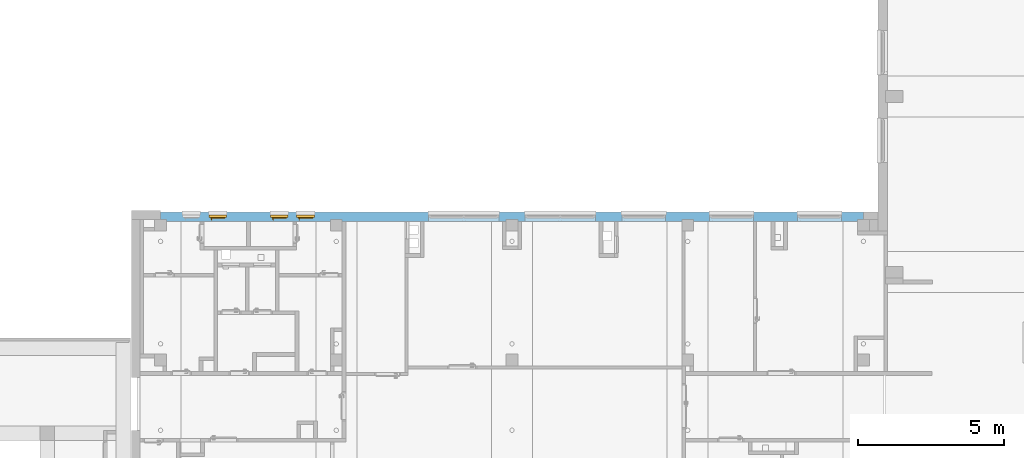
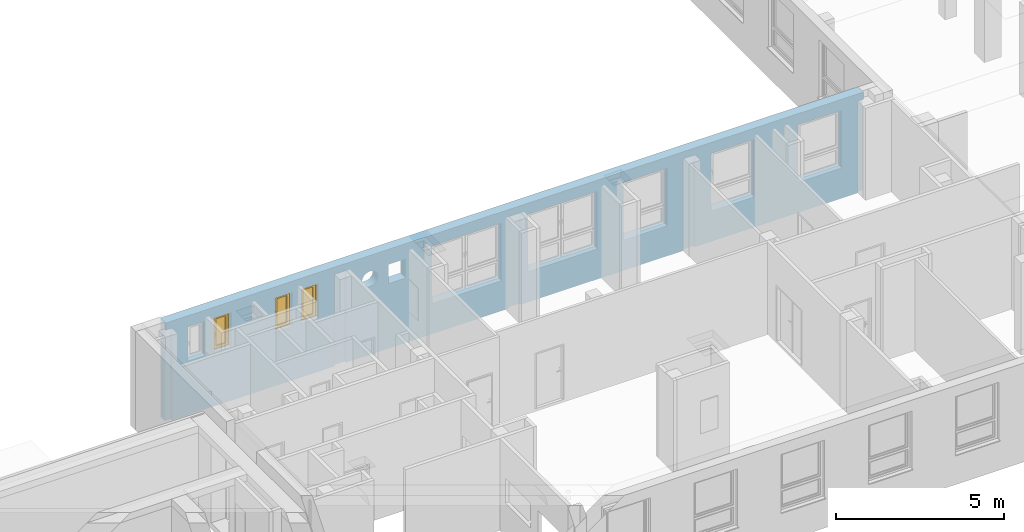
# One storey, part 17 of 50: 3 windows, 11 openings, plus 1 element that does not belong to this part.
"""IFC4 building model written with IfcOpenShell, lengths in metres."""

from ifc_helpers import new_model, entity, si_unit, converted_unit, derived_unit, frame, frame_2d, origin, origin_with_axes, place, context, subcontext, project, spatial, polyline, rectangle, outline, extrude, clip, bounded_halfspace, closed_shell, open_shell, surface_model, source, transform, mapped, material, layer, layer_set, layer_usage, element, fill, save


model = new_model("IFC4")

# Units and contexts
model_context = context("Model", 3, precision=1e-05, world=origin())
body_context = subcontext(model_context, "Body", "Model", "MODEL_VIEW")
ifc_project = project(units=[si_unit("LENGTHUNIT", "METRE"), si_unit("AREAUNIT", "SQUARE_METRE"), si_unit("VOLUMEUNIT", "CUBIC_METRE"), si_unit("MASSUNIT", "GRAM", prefix="KILO"), converted_unit("PLANEANGLEUNIT", "DEGREE", entity("IfcPlaneAngleMeasure", 0.0174532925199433), si_unit("PLANEANGLEUNIT", "RADIAN"), dimensions=[0, 0, 0, 0, 0, 0, 0]), derived_unit("THERMALTRANSMITTANCEUNIT", [(si_unit("POWERUNIT", "WATT"), 1), (si_unit("THERMODYNAMICTEMPERATUREUNIT", "KELVIN"), -1), (si_unit("LENGTHUNIT", "METRE"), -2)]), derived_unit("VOLUMETRICFLOWRATEUNIT", [(si_unit("LENGTHUNIT", "METRE"), 3), (converted_unit("TIMEUNIT", "hour", entity("IfcTimeMeasure", 3600.0), si_unit("TIMEUNIT", "SECOND"), dimensions=[0, 0, 1, 0, 0, 0, 0]), -1), (si_unit("LENGTHUNIT", "METRE"), -1)])], contexts=[model_context])

# Site, building, storey
site_placement = place(None, origin())
site = spatial("IfcSite", under=ifc_project, at=site_placement, Name="3. ASŘ", CompositionType="ELEMENT")
building_placement = place(site_placement, origin())
building = spatial("IfcBuilding", under=site, at=building_placement, Name="Pavilon C", CompositionType="ELEMENT")
storey_placement = place(building_placement, frame((0.0, 0.0, 3.6)))
storey = spatial("IfcBuildingStorey", under=building, at=storey_placement, Name="Půdorys 2.NP", CompositionType="ELEMENT", Elevation=3.6)

# Wall, openings, windows
ifc_material = material(Name="ZELEZOBETONOVÁ KCE")
ifc_layer = layer(ifc_material, 0.32)
ifc_layer_set = layer_set([ifc_layer])
ifc_layer_usage = layer_usage(ifc_layer_set, "AXIS2", "POSITIVE", 0.0)
wall_placement = place(storey_placement, frame((24.0, 15.25, -0.1), z_axis=(0.0, 0.0, 1.0), x_axis=(-1.0, 0.0, 0.0)))
wall = element("IfcWall", 1, at=wall_placement, inside=storey, material=ifc_layer_usage, Name="ZELEZOBETONOVÁ KCE", context=body_context, shape_type="Clipping", body=[
    clip(clip(clip(clip(clip(extrude(rectangle(XDim=24.0, YDim=0.32, at=frame_2d((12.0, 0.16), x_axis=(1.0, 0.0))), origin_with_axes(), (0.0, 0.0, 1.0), 3.6), bounded_halfspace(frame((23.9, 0.285000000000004, 3.35), z_axis=(0.0, 0.0, 1.0), x_axis=(1.0, 0.0, 0.0)), True, origin_with_axes(), polyline([(23.8, 0.250000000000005), (24.0, 0.250000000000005), (24.0, 0.32), (23.8, 0.320000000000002), (23.8, 0.250000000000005)]))), bounded_halfspace(frame((0.0999999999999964, 0.285000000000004, 3.35), z_axis=(0.0, 0.0, 1.0), x_axis=(1.0, 0.0, 0.0)), True, origin_with_axes(), polyline([(0.0, 0.250000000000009), (0.199999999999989, 0.250000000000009), (0.199999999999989, 0.320000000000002), (0.0, 0.32), (0.0, 0.250000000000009)]))), bounded_halfspace(frame((12.0, 0.285000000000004, 3.35), z_axis=(0.0, 0.0, 1.0), x_axis=(1.0, 0.0, 0.0)), True, origin_with_axes(), polyline([(11.8, 0.250000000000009), (12.2, 0.250000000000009), (12.2, 0.32), (11.8, 0.32), (11.8, 0.250000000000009)]))), bounded_halfspace(frame((5.99999999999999, 0.285000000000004, 3.35), z_axis=(0.0, 0.0, 1.0), x_axis=(1.0, 0.0, 0.0)), True, origin_with_axes(), polyline([(5.79999999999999, 0.250000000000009), (6.19999999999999, 0.250000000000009), (6.19999999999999, 0.32), (5.79999999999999, 0.32), (5.79999999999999, 0.250000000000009)]))), bounded_halfspace(frame((18.0, 0.285000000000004, 3.35), z_axis=(0.0, 0.0, 1.0), x_axis=(1.0, 0.0, 0.0)), True, origin_with_axes(), polyline([(17.8, 0.250000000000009), (18.2, 0.250000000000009), (18.2, 0.32), (17.8, 0.32), (17.8, 0.250000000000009)]))),
])
opening_1_placement = place(wall_placement, frame((16.7, 0.0, 2.475), z_axis=(0.0, 1.0, 0.0), x_axis=(0.0, 0.0, 1.0)))
element("IfcOpeningElement", 2, at=opening_1_placement, cuts=wall, Name="Prostup stěnou", ObjectType="Opening", context=body_context, shape_type="SweptSolid", body=[
    extrude(outline(polyline([(0.274999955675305, 0.55), (0.303745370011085, 0.548493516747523), (0.332175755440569, 0.543990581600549), (0.359979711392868, 0.536540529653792), (0.386852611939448, 0.526224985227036), (0.412500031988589, 0.5131569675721), (0.436640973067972, 0.497479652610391), (0.459010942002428, 0.479364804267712), (0.479364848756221, 0.459010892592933), (0.497479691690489, 0.436640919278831), (0.513157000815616, 0.412499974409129), (0.526225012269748, 0.38685255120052), (0.536540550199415, 0.35997964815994), (0.54399059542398, 0.332175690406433), (0.548493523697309, 0.303745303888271), (0.549999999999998, 0.274999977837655), (0.548493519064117, 0.246254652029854), (0.543990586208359, 0.217824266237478), (0.536540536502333, 0.190020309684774), (0.526224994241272, 0.163147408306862), (0.51315697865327, 0.137499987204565), (0.497479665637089, 0.113359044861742), (0.479364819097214, 0.090989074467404), (0.459010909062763, 0.0706351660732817), (0.436640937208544, 0.0525203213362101), (0.412499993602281, 0.0368430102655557), (0.386852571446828, 0.0237749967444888), (0.35997966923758, 0.0134594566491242), (0.332175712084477, 0.00600940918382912), (0.303745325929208, 0.00150647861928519), (0.274999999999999, 0.0), (0.24625467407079, 0.00150647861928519), (0.217824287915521, 0.00600940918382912), (0.190020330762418, 0.0134594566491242), (0.16314742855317, 0.0237749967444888), (0.137500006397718, 0.0368430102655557), (0.113359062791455, 0.0525203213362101), (0.0909890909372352, 0.0706351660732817), (0.0706351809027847, 0.090989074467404), (0.0525203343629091, 0.113359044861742), (0.0368430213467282, 0.137499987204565), (0.0237750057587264, 0.163147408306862), (0.0134594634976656, 0.190020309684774), (0.00600941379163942, 0.217824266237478), (0.00150648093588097, 0.246254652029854), (0.0, 0.274999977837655), (0.00150647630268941, 0.303745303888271), (0.00600940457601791, 0.332175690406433), (0.0134594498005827, 0.35997964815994), (0.0237749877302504, 0.38685255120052), (0.0368429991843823, 0.412499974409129), (0.0525203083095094, 0.436640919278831), (0.0706351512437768, 0.459010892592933), (0.0909890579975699, 0.479364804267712), (0.113359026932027, 0.497479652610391), (0.137499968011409, 0.5131569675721), (0.16314738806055, 0.526224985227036), (0.19002028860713, 0.536540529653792), (0.21782424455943, 0.543990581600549), (0.246254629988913, 0.548493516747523), (0.274999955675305, 0.55)])), origin_with_axes(), (0.0, 0.0, 1.0), 0.32),
])
opening_2_placement = place(wall_placement, frame((15.75, 0.0, 2.35), z_axis=(0.0, 1.0, 0.0), x_axis=(0.0, 0.0, 1.0)))
element("IfcOpeningElement", 3, at=opening_2_placement, cuts=wall, Name="Prostup stěnou", ObjectType="Opening", context=body_context, shape_type="SweptSolid", body=[
    extrude(outline(polyline([(0.0, 0.6), (0.7, 0.6), (0.7, 0.0), (0.0, 0.0), (0.0, 0.6)])), origin_with_axes(), (0.0, 0.0, 1.0), 0.32),
])
opening_3_placement = place(wall_placement, frame((12.45, 0.0, 1.1), z_axis=(0.0, 1.0, 0.0), x_axis=(0.0, 0.0, 1.0)))
element("IfcOpeningElement", 4, at=opening_3_placement, cuts=wall, Name="Okenní otvor", ObjectType="Opening", context=body_context, shape_type="SweptSolid", body=[
    extrude(outline(polyline([(0.0, 2.4), (2.1, 2.4), (2.1, 0.0), (0.0, 0.0), (0.0, 2.4)])), origin_with_axes(), (0.0, 0.0, 1.0), 0.32),
])
opening_4_placement = place(wall_placement, frame((9.15000000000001, 0.0, 1.1), z_axis=(0.0, 1.0, 0.0), x_axis=(0.0, 0.0, 1.0)))
element("IfcOpeningElement", 5, at=opening_4_placement, cuts=wall, Name="Okenní otvor", ObjectType="Opening", context=body_context, shape_type="SweptSolid", body=[
    extrude(outline(polyline([(0.0, 2.4), (2.1, 2.4), (2.1, 0.0), (0.0, 0.0), (0.0, 2.4)])), origin_with_axes(), (0.0, 0.0, 1.0), 0.32),
])
opening_5_placement = place(wall_placement, frame((0.750000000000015, 0.0, 1.1), z_axis=(0.0, 1.0, 0.0), x_axis=(0.0, 0.0, 1.0)))
element("IfcOpeningElement", 6, at=opening_5_placement, cuts=wall, Name="Okenní otvor", ObjectType="Opening", context=body_context, shape_type="SweptSolid", body=[
    extrude(outline(polyline([(0.0, 1.5), (2.1, 1.5), (2.1, 0.0), (0.0, 0.0), (0.0, 1.5)])), origin_with_axes(), (0.0, 0.0, 1.0), 0.32),
])
opening_6_placement = place(wall_placement, frame((3.75000000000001, 0.0, 1.1), z_axis=(0.0, 1.0, 0.0), x_axis=(0.0, 0.0, 1.0)))
element("IfcOpeningElement", 7, at=opening_6_placement, cuts=wall, Name="Okenní otvor", ObjectType="Opening", context=body_context, shape_type="SweptSolid", body=[
    extrude(outline(polyline([(0.0, 1.5), (2.1, 1.5), (2.1, 0.0), (0.0, 0.0), (0.0, 1.5)])), origin_with_axes(), (0.0, 0.0, 1.0), 0.32),
])
opening_7_placement = place(wall_placement, frame((6.75000000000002, 0.0, 1.1), z_axis=(0.0, 1.0, 0.0), x_axis=(0.0, 0.0, 1.0)))
element("IfcOpeningElement", 8, at=opening_7_placement, cuts=wall, Name="Okenní otvor", ObjectType="Opening", context=body_context, shape_type="SweptSolid", body=[
    extrude(outline(polyline([(0.0, 1.5), (2.1, 1.5), (2.1, 0.0), (0.0, 0.0), (0.0, 1.5)])), origin_with_axes(), (0.0, 0.0, 1.0), 0.32),
])
opening_8_placement = place(wall_placement, frame((22.65, 0.0, 1.95), z_axis=(0.0, 1.0, 0.0), x_axis=(0.0, 0.0, 1.0)))
element("IfcOpeningElement", 9, at=opening_8_placement, cuts=wall, Name="Okenní otvor", ObjectType="Opening", context=body_context, shape_type="SweptSolid", body=[
    extrude(outline(polyline([(0.0, 0.6), (1.25, 0.6), (1.25, 0.0), (0.0, 0.0), (0.0, 0.6)])), origin_with_axes(), (0.0, 0.0, 1.0), 0.32),
])
opening_9_placement = place(wall_placement, frame((18.75, 0.0, 1.95), z_axis=(0.0, 1.0, 0.0), x_axis=(0.0, 0.0, 1.0)))
opening_9 = element("IfcOpeningElement", 10, at=opening_9_placement, cuts=wall, Name="Okenní otvor", ObjectType="Opening", context=body_context, shape_type="SweptSolid", body=[
    extrude(outline(polyline([(0.0, 0.6), (1.25, 0.6), (1.25, 0.0), (0.0, 0.0), (0.0, 0.6)])), origin_with_axes(), (0.0, 0.0, 1.0), 0.32),
])
opening_10_placement = place(wall_placement, frame((19.65, 0.0, 1.95), z_axis=(0.0, 1.0, 0.0), x_axis=(0.0, 0.0, 1.0)))
opening_10 = element("IfcOpeningElement", 11, at=opening_10_placement, cuts=wall, Name="Okenní otvor", ObjectType="Opening", context=body_context, shape_type="SweptSolid", body=[
    extrude(outline(polyline([(0.0, 0.6), (1.25, 0.6), (1.25, 0.0), (0.0, 0.0), (0.0, 0.6)])), origin_with_axes(), (0.0, 0.0, 1.0), 0.32),
])
opening_11_placement = place(wall_placement, frame((21.75, 0.0, 1.95), z_axis=(0.0, 1.0, 0.0), x_axis=(0.0, 0.0, 1.0)))
opening_11 = element("IfcOpeningElement", 12, at=opening_11_placement, cuts=wall, Name="Okenní otvor", ObjectType="Opening", context=body_context, shape_type="SweptSolid", body=[
    extrude(outline(polyline([(0.0, 0.6), (1.25, 0.6), (1.25, 0.0), (0.0, 0.0), (0.0, 0.6)])), origin_with_axes(), (0.0, 0.0, 1.0), 0.32),
])
shared_shape = source(origin_with_axes(), body_context, "Body", "SurfaceModel", [
    surface_model("IfcShellBasedSurfaceModel", [(0.0, 0.182, 1.25), (0.0, 0.182, -5.63337527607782e-18), (0.08, 0.182, -5.63337527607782e-18), (0.08, 0.182, 1.25), (0.0, 0.0899999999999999, 5.63337527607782e-18), (0.0, 0.0900000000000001, 1.25), (0.08, 0.0900000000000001, 1.25), (0.08, 0.0899999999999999, 5.63337527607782e-18)], [closed_shell([[[0, 1, 2, 3]], [[4, 5, 6, 7]], [[1, 0, 5, 4]], [[2, 1, 4, 7]], [[3, 2, 7, 6]], [[0, 3, 6, 5]]], orient=[[False], [False], [False], [False], [False], [False]])]),
    surface_model("IfcShellBasedSurfaceModel", [(0.52, 0.182, 1.25), (0.52, 0.182, -5.63337527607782e-18), (0.6, 0.182, -5.63337527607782e-18), (0.6, 0.182, 1.25), (0.52, 0.0899999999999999, 5.63337527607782e-18), (0.52, 0.0900000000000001, 1.25), (0.6, 0.0900000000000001, 1.25), (0.6, 0.0899999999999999, 5.63337527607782e-18)], [closed_shell([[[0, 1, 2, 3]], [[4, 5, 6, 7]], [[1, 0, 5, 4]], [[2, 1, 4, 7]], [[3, 2, 7, 6]], [[0, 3, 6, 5]]], orient=[[False], [False], [False], [False], [False], [False]])]),
    surface_model("IfcShellBasedSurfaceModel", [(0.08, 0.182, 0.08), (0.08, 0.182, -5.63337527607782e-18), (0.52, 0.182, -5.63337527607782e-18), (0.52, 0.182, 0.08), (0.08, 0.0899999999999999, 5.63337527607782e-18), (0.08, 0.0899999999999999, 0.08), (0.52, 0.0899999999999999, 0.08), (0.52, 0.0899999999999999, 5.63337527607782e-18)], [closed_shell([[[0, 1, 2, 3]], [[4, 5, 6, 7]], [[1, 0, 5, 4]], [[2, 1, 4, 7]], [[3, 2, 7, 6]], [[0, 3, 6, 5]]], orient=[[False], [False], [False], [False], [False], [False]])]),
    surface_model("IfcShellBasedSurfaceModel", [(0.08, 0.182, 1.25), (0.08, 0.182, 1.17), (0.52, 0.182, 1.17), (0.52, 0.182, 1.25), (0.08, 0.0900000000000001, 1.17), (0.08, 0.0900000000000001, 1.25), (0.52, 0.0900000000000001, 1.25), (0.52, 0.0900000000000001, 1.17)], [closed_shell([[[0, 1, 2, 3]], [[4, 5, 6, 7]], [[1, 0, 5, 4]], [[2, 1, 4, 7]], [[3, 2, 7, 6]], [[0, 3, 6, 5]]], orient=[[False], [False], [False], [False], [False], [False]])]),
    surface_model("IfcShellBasedSurfaceModel", [(0.05, 0.145, 1.2), (0.05, 0.145, 0.05), (0.13, 0.145, 0.05), (0.13, 0.145, 1.2), (0.05, 0.0599999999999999, 0.05), (0.05, 0.0600000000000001, 1.2), (0.13, 0.0600000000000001, 1.2), (0.13, 0.0599999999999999, 0.05)], [closed_shell([[[0, 1, 2, 3]], [[4, 5, 6, 7]], [[1, 0, 5, 4]], [[2, 1, 4, 7]], [[3, 2, 7, 6]], [[0, 3, 6, 5]]], orient=[[False], [False], [False], [False], [False], [False]])]),
    surface_model("IfcShellBasedSurfaceModel", [(0.47, 0.145, 1.2), (0.47, 0.145, 0.05), (0.55, 0.145, 0.05), (0.55, 0.145, 1.2), (0.47, 0.0599999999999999, 0.05), (0.47, 0.0600000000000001, 1.2), (0.55, 0.0600000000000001, 1.2), (0.55, 0.0599999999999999, 0.05)], [closed_shell([[[0, 1, 2, 3]], [[4, 5, 6, 7]], [[1, 0, 5, 4]], [[2, 1, 4, 7]], [[3, 2, 7, 6]], [[0, 3, 6, 5]]], orient=[[False], [False], [False], [False], [False], [False]])]),
    surface_model("IfcShellBasedSurfaceModel", [(0.13, 0.145, 0.13), (0.13, 0.145, 0.05), (0.47, 0.145, 0.05), (0.47, 0.145, 0.13), (0.13, 0.0599999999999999, 0.05), (0.13, 0.0599999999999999, 0.13), (0.47, 0.0599999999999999, 0.13), (0.47, 0.0599999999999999, 0.05)], [closed_shell([[[0, 1, 2, 3]], [[4, 5, 6, 7]], [[1, 0, 5, 4]], [[2, 1, 4, 7]], [[3, 2, 7, 6]], [[0, 3, 6, 5]]], orient=[[False], [False], [False], [False], [False], [False]])]),
    surface_model("IfcShellBasedSurfaceModel", [(0.13, 0.145, 1.2), (0.13, 0.145, 1.12), (0.47, 0.145, 1.12), (0.47, 0.145, 1.2), (0.13, 0.0600000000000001, 1.12), (0.13, 0.0600000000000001, 1.2), (0.47, 0.0600000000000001, 1.2), (0.47, 0.0600000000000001, 1.12)], [closed_shell([[[0, 1, 2, 3]], [[4, 5, 6, 7]], [[1, 0, 5, 4]], [[2, 1, 4, 7]], [[3, 2, 7, 6]], [[0, 3, 6, 5]]], orient=[[False], [False], [False], [False], [False], [False]])]),
    surface_model("IfcShellBasedSurfaceModel", [(0.4975, 0.06, 0.645), (0.4975, 0.06, 0.605), (0.5225, 0.06, 0.605), (0.5225, 0.06, 0.645), (0.4975, 0.05, 0.605), (0.4975, 0.05, 0.645), (0.5225, 0.05, 0.645), (0.5225, 0.05, 0.605)], [closed_shell([[[0, 1, 2, 3]], [[4, 5, 6, 7]], [[1, 0, 5, 4]], [[2, 1, 4, 7]], [[3, 2, 7, 6]], [[0, 3, 6, 5]]], orient=[[False], [False], [False], [False], [False], [False]])]),
    surface_model("IfcShellBasedSurfaceModel", [(0.52, 0.05, 0.625), (0.518660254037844, 0.05, 0.63), (0.515, 0.05, 0.633660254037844), (0.51, 0.05, 0.635), (0.505, 0.05, 0.633660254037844), (0.501339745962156, 0.05, 0.63), (0.5, 0.05, 0.625), (0.501339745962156, 0.05, 0.62), (0.505, 0.05, 0.616339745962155), (0.51, 0.05, 0.615), (0.515, 0.05, 0.616339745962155), (0.518660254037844, 0.05, 0.62), (0.52, 0.01, 0.625), (0.518660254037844, 0.00500000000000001, 0.63), (0.515, 0.00133974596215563, 0.633660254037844), (0.51, 2.8421709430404e-17, 0.635), (0.505, 0.00133974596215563, 0.633660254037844), (0.501339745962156, 0.00500000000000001, 0.63), (0.5, 0.01, 0.625), (0.501339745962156, 0.015, 0.62), (0.505, 0.0186602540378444, 0.616339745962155), (0.51, 0.02, 0.615), (0.515, 0.0186602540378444, 0.616339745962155), (0.518660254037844, 0.015, 0.62), (0.52, 0.01, 0.51), (0.518660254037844, 0.005, 0.51), (0.515, 0.0013397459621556, 0.51), (0.51, 0.0, 0.51), (0.505, 0.0013397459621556, 0.51), (0.501339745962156, 0.005, 0.51), (0.5, 0.01, 0.51), (0.501339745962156, 0.015, 0.51), (0.505, 0.0186602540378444, 0.51), (0.51, 0.02, 0.51), (0.515, 0.0186602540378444, 0.51), (0.518660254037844, 0.015, 0.51)], [open_shell([[[0, 1, 2, 3, 4, 5, 6, 7, 8, 9, 10, 11]], [[0, 12, 13, 1]], [[1, 13, 14, 2]], [[2, 14, 15, 3]], [[3, 15, 16, 4]], [[4, 16, 17, 5]], [[5, 17, 18, 6]], [[6, 18, 19, 7]], [[7, 19, 20, 8]], [[8, 20, 21, 9]], [[9, 21, 22, 10]], [[10, 22, 23, 11]], [[11, 23, 12, 0]], [[12, 24, 25, 13]], [[13, 25, 26, 14]], [[14, 26, 27, 15]], [[15, 27, 28, 16]], [[16, 28, 29, 17]], [[17, 29, 30, 18]], [[18, 30, 31, 19]], [[19, 31, 32, 20]], [[20, 32, 33, 21]], [[21, 33, 34, 22]], [[22, 34, 35, 23]], [[23, 35, 24, 12]]], orient=[[False], [False], [False], [False], [False], [False], [False], [False], [False], [False], [False], [False], [False], [False], [False], [False], [False], [False], [False], [False], [False], [False], [False], [False], [False]])]),
    surface_model("IfcShellBasedSurfaceModel", [(0.13, 0.1025, 0.13), (0.47, 0.1025, 0.13), (0.47, 0.1025, 1.12), (0.13, 0.1025, 1.12)], [open_shell([[[0, 1, 2, 3]]], orient=[[False]])]),
])
window_1_placement = place(opening_9_placement, frame((0.0, 3.63797880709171e-15, 0.282), z_axis=(1.0, 0.0, 0.0), x_axis=(0.0, 1.0, -2.44929359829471e-16)))
window_1 = element("IfcWindow", 13, at=window_1_placement, inside=storey, Name="O06", OverallHeight=1.25, OverallWidth=0.6, PartitioningType="USERDEFINED", PredefinedType="WINDOW", context=body_context, shape_type="MappedRepresentation", body=[
    mapped(shared_shape, transform((0.0, 0.0, 0.0), x_axis=(1.0, 0.0, 0.0), y_axis=(0.0, -1.0, 0.0), z_axis=(0.0, 0.0, 1.0), scale=1.0)),
])
fill(opening_9, window_1)
window_2_placement = place(opening_10_placement, frame((0.0, 3.63797880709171e-15, 0.282), z_axis=(1.0, 0.0, 0.0), x_axis=(0.0, 1.0, -2.44929359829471e-16)))
window_2 = element("IfcWindow", 14, at=window_2_placement, inside=storey, Name="O06", OverallHeight=1.25, OverallWidth=0.6, PartitioningType="USERDEFINED", PredefinedType="WINDOW", context=body_context, shape_type="MappedRepresentation", body=[
    mapped(shared_shape, transform((0.0, 0.0, 0.0), x_axis=(1.0, 0.0, 0.0), y_axis=(0.0, -1.0, 0.0), z_axis=(0.0, 0.0, 1.0), scale=1.0)),
])
fill(opening_10, window_2)
window_3_placement = place(opening_11_placement, frame((0.0, 3.18323145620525e-15, 0.282), z_axis=(1.0, 0.0, 0.0), x_axis=(0.0, 1.0, -2.44929359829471e-16)))
window_3 = element("IfcWindow", 15, at=window_3_placement, inside=storey, Name="O06", OverallHeight=1.25, OverallWidth=0.6, PartitioningType="USERDEFINED", PredefinedType="WINDOW", context=body_context, shape_type="MappedRepresentation", body=[
    mapped(shared_shape, transform((0.0, 0.0, 0.0), x_axis=(1.0, 0.0, 0.0), y_axis=(0.0, -1.0, 0.0), z_axis=(0.0, 0.0, 1.0), scale=1.0)),
])
fill(opening_11, window_3)

save(model, "model.ifc")
